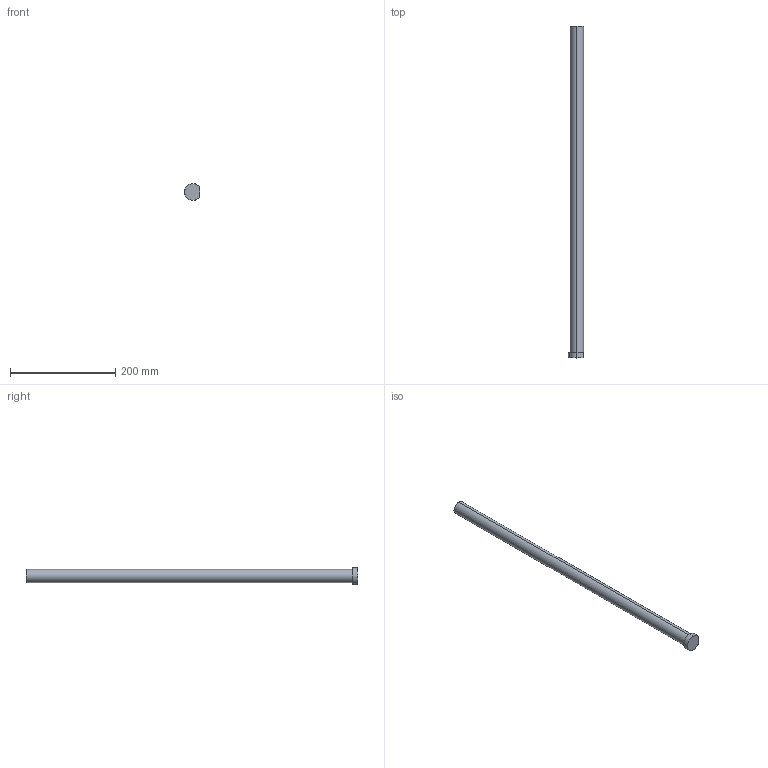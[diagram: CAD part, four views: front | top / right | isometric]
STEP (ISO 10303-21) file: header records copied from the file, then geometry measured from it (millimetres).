
FILE_DESCRIPTION (( 'STEP AP203' ), '1' );
FILE_NAME ('EPD25L630-K.step', '2022-04-08T13:25:35', ( 'Microsoft Corporation' ), ( 'MS' ), 'SwSTEP 2.0', 'SolidWorks 2019', '' );
FILE_SCHEMA (( 'CONFIG_CONTROL_DESIGN' ));
Length unit declared in the file: millimetre
Products named in the file (1): EPD25L630-K
Bounding box: 28.5 x 630 x 32 mm (x, y, z)
Volume: 311905.2 mm3; surface area: 51168.7 mm2
Topology: 1 solids, 1 shells, 18 faces, 41 edges, 25 vertices
Faces by surface type: cone 6, cylinder 5, plane 4, torus 3
Entity records: 600 total; most frequent: CARTESIAN_POINT 109, DIRECTION 95, ORIENTED_EDGE 82, EDGE_CURVE 41, AXIS2_PLACEMENT_3D 41, VERTEX_POINT 25, CIRCLE 22, ADVANCED_FACE 18
